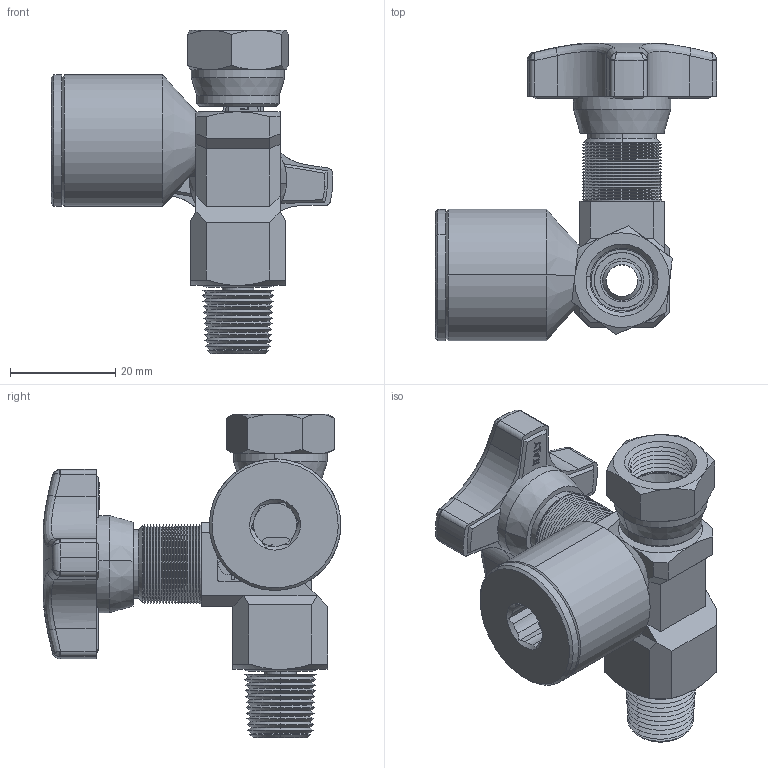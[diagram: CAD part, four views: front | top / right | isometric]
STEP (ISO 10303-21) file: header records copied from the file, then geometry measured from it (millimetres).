
FILE_DESCRIPTION (( 'STEP AP214' ), '1' );
FILE_NAME ('01.290-14.STEP', '2015-05-15T09:35:29', ( '' ), ( '' ), 'SwSTEP 2.0', 'SolidWorks 2014', '' );
FILE_SCHEMA (( 'AUTOMOTIVE_DESIGN' ));
Length unit declared in the file: millimetre
Products named in the file (1): 01.290-14
Bounding box: 53.49 x 56.58 x 61.5 mm (x, y, z)
Surface area: 12691.5 mm2 (no closed solid volume)
Topology: 0 solids, 15 shells, 580 faces, 1570 edges, 991 vertices
Faces by surface type: plane 260, cone 193, cylinder 64, bspline 52, torus 9, sphere 2
Entity records: 26937 total; most frequent: CARTESIAN_POINT 6362, DIRECTION 2881, ORIENTED_EDGE 2879, EDGE_CURVE 1562, VERTEX_POINT 991, AXIS2_PLACEMENT_3D 974, VECTOR 933, LINE 933
